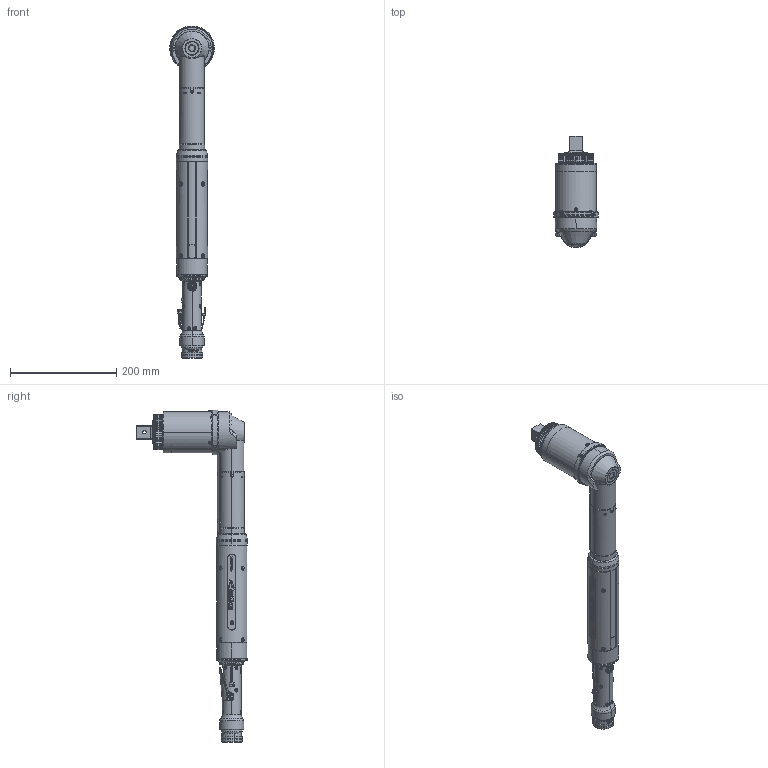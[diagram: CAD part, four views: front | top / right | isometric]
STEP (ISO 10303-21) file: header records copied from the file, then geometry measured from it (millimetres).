
FILE_DESCRIPTION (( 'STEP AP203' ), '1' );
FILE_NAME ('AEN3572600A.STEP', '2014-08-26T18:37:47', ( 'AIMCO' ), ( '' ), 'SwSTEP 2.0', 'SolidWorks 2014', '' );
FILE_SCHEMA (( 'CONFIG_CONTROL_DESIGN' ));
Length unit declared in the file: inch
Products named in the file (1): AEN3572600A
Bounding box: 83.82 x 208.25 x 624.11 mm (x, y, z)
Surface area: 275413.1 mm2 (no closed solid volume)
Topology: 0 solids, 118 shells, 1569 faces, 6639 edges, 4909 vertices
Faces by surface type: cylinder 449, plane 447, bspline 272, torus 216, cone 177, sphere 8
Entity records: 135343 total; most frequent: CARTESIAN_POINT 86519, ORIENTED_EDGE 9678, DIRECTION 8628, EDGE_CURVE 6635, VERTEX_POINT 4909, AXIS2_PLACEMENT_3D 3066, VECTOR 2496, LINE 2496
